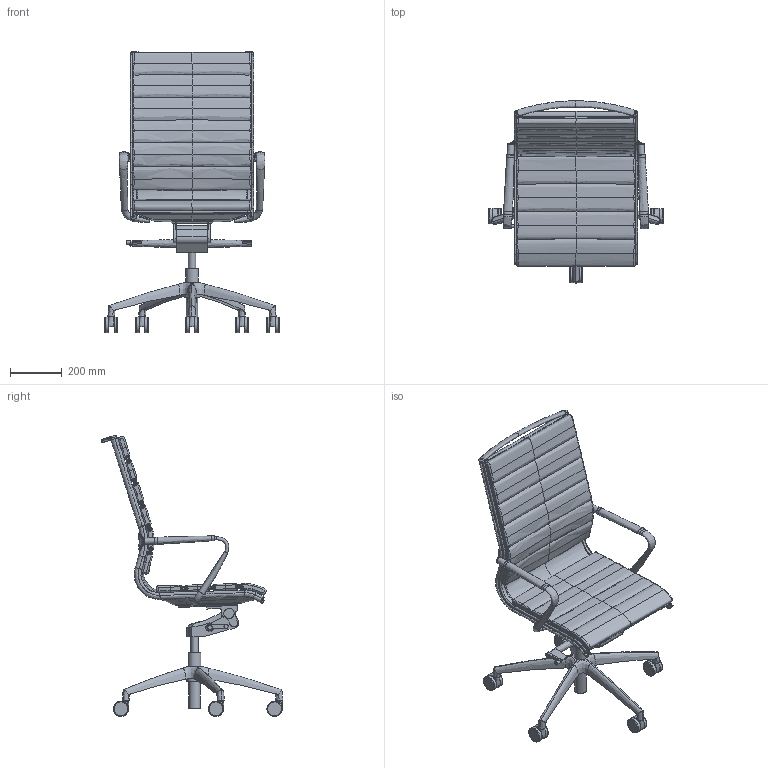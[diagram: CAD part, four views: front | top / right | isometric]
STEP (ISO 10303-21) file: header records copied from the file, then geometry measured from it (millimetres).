
FILE_DESCRIPTION(/* description */ (''),/* implementation_level */ '2;1');
FILE_NAME(/* name */ 'PLUTO6~1',/* time_stamp */ '2018-04-10T13:46:06+02:00',/* author */ (''),/* organization */ (''),/* preprocessor_version */ 'ST-DEVELOPER v16.5',/* originating_system */ '',/* authorisation */ '');
FILE_SCHEMA (('AUTOMOTIVE_DESIGN'));
Length unit declared in the file: millimetre
Products named in the file (1): Document
Bounding box: 677.7 x 706.27 x 1092.2 mm (x, y, z)
Volume: 18844573.7 mm3; surface area: 3121715.4 mm2
Topology: 24 solids, 60 shells, 851 faces, 2160 edges, 1367 vertices
Faces by surface type: bspline 721, plane 130
Entity records: 80305 total; most frequent: CARTESIAN_POINT 67332, ORIENTED_EDGE 4075, EDGE_CURVE 2137, B_SPLINE_CURVE_WITH_KNOTS 1564, VERTEX_POINT 1361, EDGE_LOOP 855, ADVANCED_FACE 851, FACE_OUTER_BOUND 851
